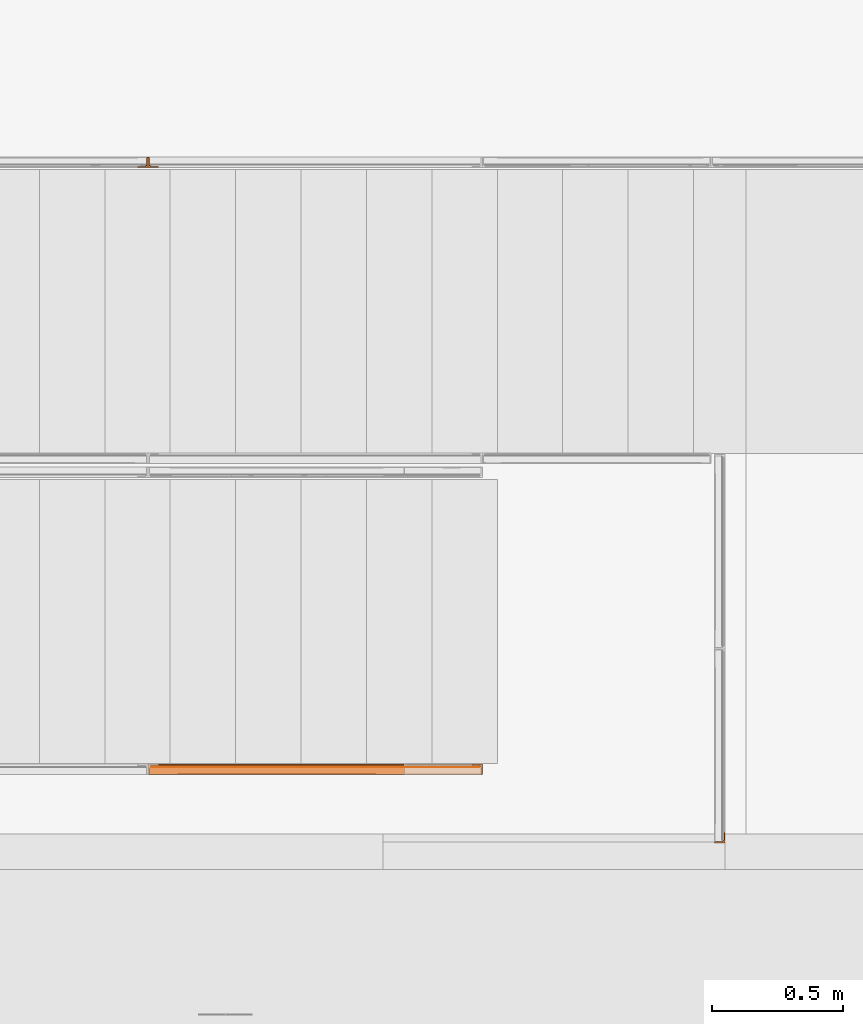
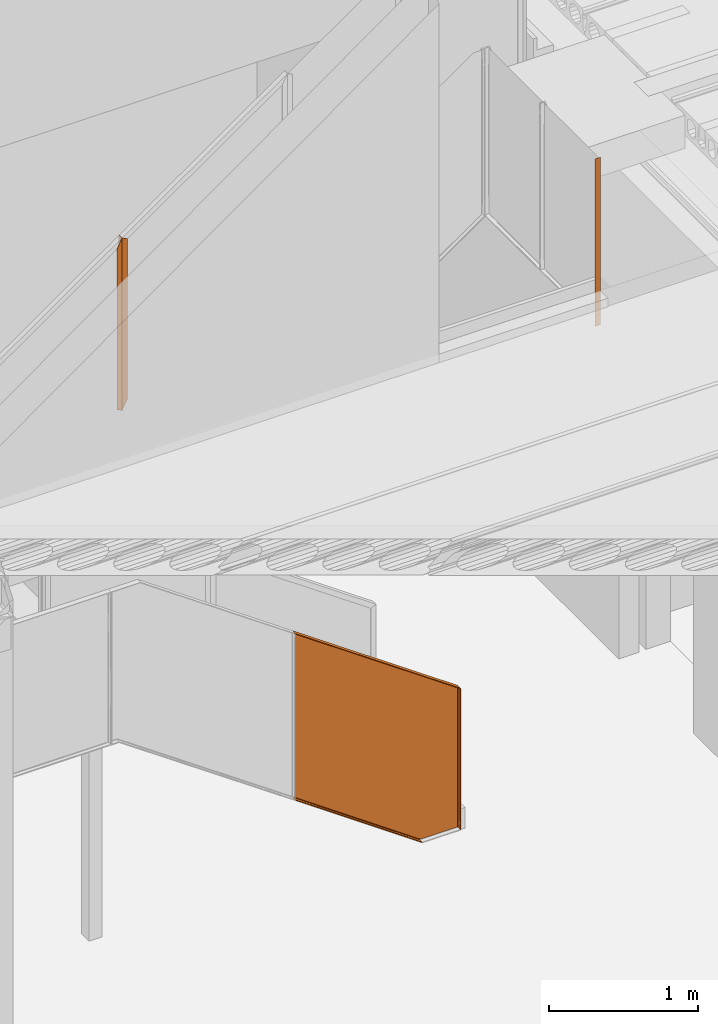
# One storey, part 222 of 230: 7 proxies.
"""IFC4X3_ADD2 building model written with IfcOpenShell, lengths in millimetres."""

from ifc_helpers import new_model, si_unit, direction, frame, origin_with_axes, place, context, subcontext, project, spatial, triangles, polygons, source, transform, mapped, material, type_object, type_shapes, element, save


model = new_model("IFC4X3_ADD2")

# Units and contexts
model_context = context("Model", 3, precision=1e-05, world=origin_with_axes(), true_north=direction((0.0, 1.0)))
body_context = subcontext(model_context, "Body", "Model", "MODEL_VIEW")
ifc_project = project(units=[si_unit("LENGTHUNIT", "METRE", prefix="MILLI"), si_unit("AREAUNIT", "SQUARE_METRE"), si_unit("VOLUMEUNIT", "CUBIC_METRE"), si_unit("PLANEANGLEUNIT", "RADIAN"), si_unit("TIMEUNIT", "SECOND"), si_unit("MASSUNIT", "GRAM")], contexts=[model_context])

# Site, building, storey
site_placement = place(None, origin_with_axes())
site = spatial("IfcSite", under=ifc_project, at=site_placement, Name="Site", CompositionType="ELEMENT")
building_placement = place(site_placement, origin_with_axes())
building = spatial("IfcBuilding", under=site, at=building_placement, Name="IFC Building Story")
storey_placement = place(building_placement, origin_with_axes())
storey = spatial("IfcBuildingStorey", under=building, at=storey_placement, Name="ETAGE 00 (0)", Elevation=0.0)

# Proxies
ifc_material = material(Name="<Unnamed>")
building_element_proxy_type_1 = type_object("IfcBuildingElementProxyType", Name="11", PredefinedType="NOTDEFINED")
shared_shape_1 = source(origin_with_axes(), body_context, "Body", "Tessellation", [
    polygons([(991.64813977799, 40.0, 40.0000000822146), (991.6481399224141, 38.0000008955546, 40.0000005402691), (40.0000007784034, 38.0000008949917, 708.60963534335), (40.0000004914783, 40.0, 708.609634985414), (0.0, 0.0, 687.786953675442), (2.0000000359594, 0.0, 688.828087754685), (246.416695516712, 0.0, 517.121066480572), (735.250089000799, 0.0, 173.707022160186), (979.666785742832, 0.0, 2.0), (979.036188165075, 0.0, 0.0), (39.6040891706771, 36.4116451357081, 708.4035367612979), (38.7828648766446, 35.5187605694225, 707.976034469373), (37.0000006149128, 35.000000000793, 707.047934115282), (11.000000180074, 35.0000000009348, 693.5131911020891), (8.62096939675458, 34.5866192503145, 692.274746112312), (6.97422061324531, 33.6253492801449, 691.4175029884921), (5.72236770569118, 32.06694790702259, 690.7658296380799), (5.12250915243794, 30.3382676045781, 690.453563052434), (5.000000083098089, 29.000000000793, 690.389788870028), (5.000000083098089, 3.00000000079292, 690.389788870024), (4.60444841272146, 1.4105605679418, 690.1838777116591), (3.78223442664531, 0.5171172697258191, 689.7558602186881), (0.0, 40.0, 687.7869536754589), (980.834811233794, 32.0192239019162, 5.70450357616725), (980.649713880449, 30.3012874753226, 5.11744977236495), (494.769483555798, 32.0052648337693, 349.964452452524), (492.80634218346, 29.000000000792, 347.694893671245), (980.6126821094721, 29.0000000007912, 5.0), (981.2010280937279, 33.5199412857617, 6.865995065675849), (982.504474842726, 35.0000000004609, 10.9999999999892), (981.697970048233, 34.5115988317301, 8.44209358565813), (275.425560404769, 35.0000000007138, 539.535951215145), (752.27668233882, 35.0000000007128, 204.511983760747), (990.702243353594, 35.0000000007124, 37.0000000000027), (991.509271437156, 36.3433179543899, 39.5595660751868), (991.2135495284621, 35.4200944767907, 38.6216560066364), (980.6126821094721, 3.00000000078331, 5.0), (980.473963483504, 1.34235033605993, 4.56004072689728), (980.177893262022, 0.418679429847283, 3.62102595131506), (979.036188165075, 40.0, 0.0)], [[[1, 2, 3, 4]], [[8, 9, 10]], [[10, 7, 8]], [[10, 5, 7]], [[5, 6, 7]], [[19, 20, 21]], [[19, 21, 22]], [[19, 22, 6]], [[19, 6, 5]], [[19, 5, 23]], [[23, 18, 19]], [[23, 17, 18]], [[23, 16, 17]], [[23, 15, 16]], [[23, 14, 15]], [[23, 4, 3]], [[23, 3, 11]], [[23, 11, 12]], [[23, 12, 13]], [[23, 13, 14]], [[24, 25, 26]], [[27, 26, 25]], [[25, 28, 27]], [[29, 24, 26]], [[30, 31, 26]], [[14, 30, 26]], [[31, 29, 26]], [[27, 19, 18]], [[18, 26, 27]], [[17, 16, 26]], [[26, 18, 17]], [[16, 15, 26]], [[26, 15, 14]], [[33, 34, 30]], [[30, 32, 33]], [[30, 14, 32]], [[14, 13, 32]], [[2, 35, 33]], [[33, 32, 3, 2]], [[36, 34, 33]], [[33, 35, 36]], [[12, 11, 32]], [[32, 13, 12]], [[32, 11, 3]], [[37, 38, 8]], [[8, 7, 20, 37]], [[39, 9, 8]], [[8, 38, 39]], [[22, 21, 7]], [[7, 6, 22]], [[7, 21, 20]], [[40, 1, 4, 23]], [[23, 5, 10, 40]], [[27, 28, 37]], [[27, 37, 20]], [[20, 19, 27]], [[30, 34, 36]], [[30, 36, 35]], [[30, 35, 2]], [[30, 2, 1]], [[30, 1, 40]], [[40, 31, 30]], [[40, 29, 31]], [[40, 24, 29]], [[40, 25, 24]], [[40, 28, 25]], [[40, 10, 9]], [[40, 9, 39]], [[40, 39, 38]], [[40, 38, 37]], [[40, 37, 28]]]),
])
type_shapes(building_element_proxy_type_1, [shared_shape_1])
proxy_1_placement = place(storey_placement, frame((36336.6894781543, 657.499963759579, 30.0), z_axis=(0.0, 0.0, 1.0), x_axis=(1.0, 0.0, 0.0)))
element("IfcBuildingElementProxy", 1, at=proxy_1_placement, inside=storey, type_object=building_element_proxy_type_1, material=ifc_material, Name="6:2062", ObjectType="6:2062", context=body_context, shape_type="MappedRepresentation", body=[
    mapped(shared_shape_1, transform((0.0, 0.0, 0.0))),
])
building_element_proxy_type_2 = type_object("IfcBuildingElementProxyType", Name="45", PredefinedType="NOTDEFINED")
shared_shape_2 = source(origin_with_axes(), body_context, "Body", "Tessellation", [
    polygons([(1237.50000013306, 40.0021105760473, 0.0), (1237.50000013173, 38.0021105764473, 0.0), (1237.5346924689, 37.5555193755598, 0.0178532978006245), (1237.98881825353, 36.3994047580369, 0.251554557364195), (1240.50000012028, 35.0021105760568, 1.54385370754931), (1266.50000001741, 35.0008234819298, 14.9239191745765), (1268.87842510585, 34.4611661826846, 16.1478993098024), (1270.20309564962, 33.6439889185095, 16.8295984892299), (1271.94903037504, 31.4575115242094, 17.7280877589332), (1272.50000000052, 29.0021105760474, 18.0116265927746), (1272.50000000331, 3.00211057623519, 18.0116265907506), (1272.53481827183, 2.55356178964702, 18.0295446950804), (1272.98902900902, 1.39651598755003, 18.2632896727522), (1275.49999999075, 0.00211057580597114, 19.5554802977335), (1277.49999998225, 0.0, 20.5847161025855), (1277.49999998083, 40.0021105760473, 20.5847161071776), (40.0, 40.0021105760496, 837.290654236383), (40.0, 38.002110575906, 837.290654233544), (189.687500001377, 38.0021105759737, 732.62932247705), (339.375000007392, 38.0021105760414, 627.967990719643), (489.062500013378, 38.0021105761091, 523.3066589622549), (638.750000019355, 38.0021105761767, 418.645327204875), (788.4375000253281, 38.0021105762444, 313.983995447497), (938.125000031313, 38.0021105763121, 209.322663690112), (1087.81250003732, 38.0021105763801, 104.661331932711), (639.335360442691, 0.00210679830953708, 464.9338539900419), (479.790261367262, 0.00228940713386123, 576.63125486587), (320.30039785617, 0.00247195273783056, 688.289985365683), (160.99417552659, 0.00265428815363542, 799.820148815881), (1.99999999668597, 0.00283626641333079, 911.1318485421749), (0.0, 0.0028417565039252, 915.018227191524), (1117.01801488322, 0.00156006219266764, 130.508595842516), (958.0776428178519, 0.00174197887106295, 241.782627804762), (798.807289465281, 0.00192427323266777, 353.287679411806), (957.530348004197, 29.002110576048, 238.500485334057), (321.725792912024, 29.0021105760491, 683.584066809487), (4.99999999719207, 29.0021105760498, 905.30228057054), (5.000000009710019, 3.00211056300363, 905.302280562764), (163.437500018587, 3.00211056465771, 794.390948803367), (321.875000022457, 3.00211056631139, 683.479617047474), (480.312500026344, 3.00211056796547, 572.568285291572), (638.750000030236, 3.00211056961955, 461.656953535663), (797.187500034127, 3.00211057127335, 350.745621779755), (955.625000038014, 3.00211057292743, 239.834290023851), (1114.06250004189, 3.00211057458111, 128.922958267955), (638.749999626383, 35.0019750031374, 454.283532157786), (639.324408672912, 32.0662130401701, 457.507522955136), (955.049926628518, 32.0485664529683, 236.53092655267), (11.0000000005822, 35.003126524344, 893.6431446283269), (8.60496015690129, 34.531448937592, 898.2971604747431), (323.251309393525, 31.9412966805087, 678.931736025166), (324.874997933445, 35.002550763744, 673.9633397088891), (7.411356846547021, 33.7993600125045, 900.616557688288), (6.702193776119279, 33.364399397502, 901.994595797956), (5.18933983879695, 30.711465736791, 904.934357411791), (5.85768653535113, 32.338982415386, 903.635633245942), (0.0, 40.0021105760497, 915.018227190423), (4.898819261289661, 2.1118921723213, 905.498893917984), (4.59843409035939, 1.36558594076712, 906.0825991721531), (3.41637283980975, 0.32197944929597, 908.3795679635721), (940.578010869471, 35.0018191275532, 211.271530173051), (790.057631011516, 35.0018240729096, 316.526531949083), (639.33559834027, 35.0018290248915, 421.922544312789), (488.54036587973, 35.0018339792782, 527.369743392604), (337.800386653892, 35.0018389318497, 632.778305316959), (187.244113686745, 35.0018438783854, 738.058406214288), (37.0000000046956, 35.0018488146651, 843.120222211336), (1090.76828489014, 35.0018141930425, 106.247362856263), (39.8915423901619, 37.0919567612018, 837.501407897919), (39.6021713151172, 36.3848859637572, 838.063710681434), (38.4042936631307, 35.3252580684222, 840.391413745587)], [[[11, 12, 13]], [[11, 13, 14]], [[11, 14, 15]], [[15, 16, 10]], [[15, 10, 11]], [[16, 9, 10]], [[16, 8, 9]], [[16, 7, 8]], [[16, 6, 7]], [[16, 2, 3]], [[16, 3, 4]], [[16, 4, 5]], [[16, 5, 6]], [[16, 1, 2]], [[25, 2, 1]], [[1, 24, 25]], [[1, 23, 24]], [[1, 22, 23]], [[1, 21, 22]], [[1, 20, 21]], [[1, 19, 20]], [[1, 17, 19]], [[17, 18, 19]], [[29, 30, 31]], [[31, 28, 29]], [[31, 27, 28]], [[31, 26, 27]], [[31, 15, 26]], [[34, 26, 15]], [[15, 33, 34]], [[15, 32, 33]], [[15, 14, 32]], [[39, 40, 36]], [[36, 37, 38]], [[36, 38, 39]], [[43, 44, 35]], [[35, 42, 43]], [[35, 36, 42]], [[36, 41, 42]], [[36, 40, 41]], [[45, 11, 10]], [[45, 10, 35]], [[35, 44, 45]], [[46, 47, 48]], [[49, 50, 51]], [[51, 52, 49]], [[50, 53, 51]], [[47, 51, 36, 35]], [[8, 7, 48]], [[6, 46, 48]], [[48, 7, 6]], [[35, 10, 9]], [[9, 48, 35]], [[9, 8, 48]], [[53, 54, 36]], [[55, 37, 36]], [[36, 56, 55]], [[36, 54, 56]], [[52, 51, 47]], [[47, 46, 52]], [[36, 51, 53]], [[35, 48, 47]], [[16, 15, 31, 57]], [[57, 17, 1, 16]], [[42, 26, 34]], [[29, 39, 38]], [[38, 58, 29]], [[59, 60, 29]], [[29, 58, 59]], [[60, 30, 29]], [[45, 44, 33]], [[44, 43, 34]], [[32, 12, 11]], [[11, 45, 32]], [[32, 13, 12]], [[40, 28, 27]], [[39, 29, 28]], [[41, 27, 26]], [[26, 42, 41]], [[28, 40, 39]], [[27, 41, 40]], [[32, 14, 13]], [[34, 33, 44]], [[33, 32, 45]], [[34, 43, 42]], [[66, 67, 49]], [[66, 49, 52]], [[52, 65, 66]], [[52, 46, 64]], [[52, 64, 65]], [[46, 63, 64]], [[46, 62, 63]], [[46, 61, 62]], [[46, 6, 61]], [[68, 61, 6]], [[6, 5, 68]], [[22, 63, 62]], [[66, 19, 18]], [[18, 69, 66]], [[70, 71, 66]], [[66, 69, 70]], [[71, 67, 66]], [[25, 24, 61]], [[24, 23, 62]], [[68, 3, 2]], [[2, 25, 68]], [[68, 4, 3]], [[20, 65, 64]], [[19, 66, 65]], [[21, 64, 63]], [[63, 22, 21]], [[65, 20, 19]], [[64, 21, 20]], [[68, 5, 4]], [[62, 61, 24]], [[61, 68, 25]], [[62, 23, 22]], [[49, 67, 71]], [[49, 71, 70]], [[49, 70, 69]], [[49, 69, 18]], [[49, 18, 17]], [[49, 17, 57]], [[57, 50, 49]], [[57, 53, 50]], [[57, 54, 53]], [[57, 56, 54]], [[57, 55, 56]], [[57, 37, 55]], [[57, 31, 30]], [[57, 30, 60]], [[57, 60, 59]], [[57, 59, 58]], [[57, 58, 38]], [[57, 38, 37]]]),
])
type_shapes(building_element_proxy_type_2, [shared_shape_2])
proxy_2_placement = place(storey_placement, frame((36336.6894781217, 657.497853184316, 1166.74266860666), z_axis=(0.0, 0.0, 1.0), x_axis=(1.0, 0.0, 0.0)))
element("IfcBuildingElementProxy", 2, at=proxy_2_placement, inside=storey, type_object=building_element_proxy_type_2, material=ifc_material, Name="23:7860", ObjectType="23:7860", context=body_context, shape_type="MappedRepresentation", body=[
    mapped(shared_shape_2, transform((0.0, 0.0, 0.0))),
])
building_element_proxy_type_3 = type_object("IfcBuildingElementProxyType", Name="47", PredefinedType="NOTDEFINED")
shared_shape_3 = source(origin_with_axes(), body_context, "Body", "Tessellation", [
    polygons([(0.0, 40.00000460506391, 1136.7426687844), (0.0, 38.0000046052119, 1136.7426687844), (0.0, 38.0000046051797, 999.6498351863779), (0.0, 38.0000046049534, 40.0), (0.0, 40.00000460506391, 40.0), (40.0, 40.00000460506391, 1157.32738459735), (40.0, 0.0, 1157.32738459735), (38.000000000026, 2.31455918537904e-06, 1156.29814880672), (36.5033905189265, 0.421920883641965, 1155.52796678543), (35.491163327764, 1.37411092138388, 1155.00705655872), (35.035963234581, 2.53627173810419, 1154.77280244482), (34.9999999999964, 3.00000460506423, 1154.75429512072), (34.9999999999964, 29.0000046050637, 1154.75429512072), (34.430414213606, 31.5277436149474, 1154.46117608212), (33.7589297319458, 32.6101930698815, 1154.11561815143), (33.0778853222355, 33.2923666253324, 1153.76514051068), (32.6907849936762, 33.6801087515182, 1153.56593175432), (31.3832040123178, 34.4723112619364, 1152.89302718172), (28.9999999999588, 35.0000046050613, 1151.66658774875), (3.00000000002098, 35.000004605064, 1138.28652247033), (1.50339051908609, 35.4219208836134, 1137.51634044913), (0.491163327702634, 36.3741109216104, 1136.99543022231), (0.0359632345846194, 37.5362717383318, 1136.76117610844), (40.0, 40.00000460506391, 0.0), (40.0, 6.91360958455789e-06, 0.0), (35.0, 29.0000046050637, 291.793392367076), (35.0, 29.0000046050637, 580.143267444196), (35.0, 29.0000046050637, 868.3600825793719), (35.0, 3.00000460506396, 1011.03500823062), (35.0, 3.00000460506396, 5.000000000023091), (35.0, 29.0000046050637, 5.00000000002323), (31.9986061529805, 32.039989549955, 867.427185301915), (28.9999999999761, 35.0000046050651, 866.499940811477), (31.6093514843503, 34.36800021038, 8.39064851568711), (30.8992626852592, 34.6609992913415, 9.100737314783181), (32.0291803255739, 31.9915338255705, 293.953641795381), (29.0000306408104, 35.0000354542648, 11.0000000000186), (31.9542957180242, 32.0657286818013, 580.745660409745), (34.3603314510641, 31.7557871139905, 5.63966854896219), (33.4136579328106, 33.0733531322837, 6.586342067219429), (34.9944634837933, 29.2779995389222, 5.00553651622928), (32.8749080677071, 33.4599232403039, 7.12509193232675), (2.99999999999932, 35.0000046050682, 37.0000000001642), (2.99999999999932, 35.0000046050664, 174.349441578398), (2.99999999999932, 35.0000046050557, 1001.05350834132), (0.8983252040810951, 35.8595703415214, 39.101674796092), (0.268017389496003, 36.7280855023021, 39.7319826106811), (1.93057025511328, 35.213648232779, 38.0694297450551), (38.0000000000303, 2.81580376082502e-06, 1012.43868138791), (35.8983242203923, 0.859571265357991, 4.10167577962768), (35.26801711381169, 1.72808609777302, 4.73198288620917), (37.999999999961, 5.83479129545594e-06, 145.975894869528), (36.9305684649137, 0.213648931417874, 3.06943153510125), (37.999999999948, 6.33644140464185e-06, 2.00000000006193)], [[[3, 4, 5]], [[5, 1, 3]], [[1, 2, 3]], [[2, 1, 6]], [[6, 19, 20]], [[6, 20, 21]], [[6, 21, 22]], [[6, 22, 23]], [[6, 23, 2]], [[6, 18, 19]], [[6, 17, 18]], [[6, 16, 17]], [[6, 15, 16]], [[6, 14, 15]], [[6, 13, 14]], [[6, 7, 12]], [[6, 12, 13]], [[7, 8, 9]], [[7, 9, 10]], [[7, 10, 11]], [[7, 11, 12]], [[24, 25, 7, 6]], [[28, 13, 12]], [[28, 12, 29]], [[29, 27, 28]], [[29, 26, 27]], [[29, 30, 26]], [[30, 31, 26]], [[19, 18, 32]], [[32, 33, 19]], [[18, 17, 32]], [[17, 16, 32]], [[34, 35, 36]], [[37, 33, 38, 36]], [[36, 35, 37]], [[39, 40, 26]], [[26, 41, 39]], [[42, 36, 26]], [[26, 40, 42]], [[16, 15, 28]], [[14, 13, 28]], [[28, 15, 14]], [[33, 32, 38]], [[32, 28, 27]], [[27, 38, 32]], [[28, 32, 16]], [[26, 31, 41]], [[36, 42, 34]], [[36, 38, 27, 26]], [[44, 45, 33]], [[44, 33, 37]], [[37, 43, 44]], [[45, 20, 19]], [[45, 19, 33]], [[23, 22, 3]], [[22, 21, 3]], [[3, 2, 23]], [[21, 20, 45]], [[45, 3, 21]], [[46, 47, 44]], [[44, 48, 46]], [[44, 43, 48]], [[44, 47, 4]], [[4, 3, 45, 44]], [[6, 1, 5, 24]], [[11, 10, 29]], [[10, 9, 29]], [[29, 12, 11]], [[9, 8, 49]], [[49, 29, 9]], [[50, 51, 52]], [[52, 53, 50]], [[52, 54, 53]], [[52, 51, 30]], [[30, 29, 49, 52]], [[49, 8, 7]], [[7, 52, 49]], [[7, 25, 52]], [[25, 54, 52]], [[31, 30, 51]], [[31, 51, 50]], [[31, 50, 53]], [[31, 53, 54]], [[31, 54, 25]], [[31, 25, 24]], [[24, 41, 31]], [[24, 39, 41]], [[24, 40, 39]], [[24, 42, 40]], [[24, 34, 42]], [[24, 35, 34]], [[24, 37, 35]], [[24, 5, 4]], [[24, 4, 47]], [[24, 47, 46]], [[24, 46, 48]], [[24, 48, 43]], [[24, 43, 37]]]),
])
type_shapes(building_element_proxy_type_3, [shared_shape_3])
proxy_3_placement = place(storey_placement, frame((37574.1894781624, 657.4999591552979, 30.0), z_axis=(0.0, 0.0, 1.0), x_axis=(1.0, 0.0, 0.0)))
element("IfcBuildingElementProxy", 3, at=proxy_3_placement, inside=storey, type_object=building_element_proxy_type_3, material=ifc_material, Name="24:8250", ObjectType="24:8250", context=body_context, shape_type="MappedRepresentation", body=[
    mapped(shared_shape_3, transform((0.0, 0.0, 0.0))),
])
building_element_proxy_type_4 = type_object("IfcBuildingElementProxyType", Name="49", PredefinedType="NOTDEFINED")
shared_shape_4 = source(origin_with_axes(), body_context, "Body", "Tessellation", [
    triangles([(2.11648546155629e-07, 0.0, 682.513191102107), (971.5044748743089, 0.0, 0.0), (1255.50000003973, 0.0, 0.0), (1255.50000003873, 0.0, 1140.66658774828), (0.0, 0.0, 2019.38581322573)], [[1, 2, 3], [1, 3, 4], [1, 4, 5]]),
])
type_shapes(building_element_proxy_type_4, [shared_shape_4])
proxy_4_placement = place(storey_placement, frame((36347.6894781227, 686.499963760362, 40.9999999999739), z_axis=(0.0, 0.0, 1.0), x_axis=(1.0, 0.0, 0.0)))
element("IfcBuildingElementProxy", 4, at=proxy_4_placement, inside=storey, type_object=building_element_proxy_type_4, material=ifc_material, Name="25:8304", ObjectType="25:8304", context=body_context, shape_type="MappedRepresentation", body=[
    mapped(shared_shape_4, transform((0.0, 0.0, 0.0))),
])
building_element_proxy_type_5 = type_object("IfcBuildingElementProxyType", Name="113", PredefinedType="NOTDEFINED")
shared_shape_5 = source(origin_with_axes(), body_context, "Body", "Tessellation", [
    polygons([(38.000038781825, 40.0, 1330.0), (38.0000387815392, 40.0, 40.0), (40.000038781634, 40.0, 40.0), (40.000038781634, 40.0, 1330.0), (40.0000387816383, 0.0, 1370.0), (1.96202269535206e-05, 0.0, 1370.0), (1.00380916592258e-05, 1.99999996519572, 1368.00000004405), (0.6799518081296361, 4.04174058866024, 1365.95825942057), (1.42999574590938, 4.64110857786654, 1365.35889143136), (3.00003878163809, 5.00000000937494, 1364.99999999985), (29.0000387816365, 5.00000000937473, 1364.99999999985), (31.830863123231, 5.56244914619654, 1364.43755086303), (33.4462204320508, 6.69317965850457, 1363.30682035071), (34.5258912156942, 8.38084043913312, 1361.61915957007), (34.9906236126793, 10.6125554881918, 1359.387444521), (35.0000387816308, 11.0000000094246, 1358.99999999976), (35.0000387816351, 37.0000000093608, 1332.99999999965), (35.679951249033, 39.0417406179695, 1330.95825939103), (36.4299955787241, 39.6411086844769, 1330.35889132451), (33.4462161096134, 6.693178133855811, 6.693178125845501), (34.5258895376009, 8.38083947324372, 8.38083946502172), (32.0128851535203, 7.99419312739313, 685.0000000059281), (34.9906233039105, 10.6125497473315, 10.6125497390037), (35.0000387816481, 11.0000000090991, 11.0000000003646), (31.8308603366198, 5.562449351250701, 5.562449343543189), (29.0000387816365, 5.000000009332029, 685.000000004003), (29.0000387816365, 5.00000000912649, 5.000000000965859), (35.0000387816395, 37.0000000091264, 37.0000000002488), (35.0000387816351, 37.0000000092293, 361.000000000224), (35.0000387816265, 37.0000000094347, 1008.99999999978), (35.6799483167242, 39.0417401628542, 39.0417401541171), (36.429989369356, 39.6411070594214, 39.6411070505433), (0.679947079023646, 4.04174009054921, 4.0417400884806), (1.42998905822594, 4.64110725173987, 4.64110724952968), (4.19773442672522e-05, 2.00000001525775, 343.500000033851), (5.262376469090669e-05, 2.00000003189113, 2.00000002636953), (3.00003878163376, 5.00000000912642, 5.00000000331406), (2.33419113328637e-05, 1.99999732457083, 1026.50000001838), (4.27103716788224e-05, 0.0, 0.0), (40.000038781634, 0.0, 0.0)], [[[1, 2, 3, 4]], [[16, 17, 18]], [[16, 18, 19]], [[16, 19, 1]], [[16, 1, 4]], [[16, 4, 5]], [[5, 15, 16]], [[5, 14, 15]], [[5, 13, 14]], [[5, 12, 13]], [[5, 11, 12]], [[5, 6, 7]], [[5, 7, 8]], [[5, 8, 9]], [[5, 9, 10]], [[5, 10, 11]], [[20, 21, 22]], [[21, 23, 22]], [[24, 16, 22]], [[22, 23, 24]], [[25, 22, 26]], [[26, 27, 25]], [[25, 20, 22]], [[16, 15, 22]], [[13, 12, 22]], [[22, 14, 13]], [[22, 15, 14]], [[12, 11, 26]], [[26, 22, 12]], [[30, 17, 16]], [[16, 29, 30]], [[16, 24, 29]], [[24, 28, 29]], [[31, 32, 29]], [[29, 28, 31]], [[29, 32, 2]], [[2, 1, 30, 29]], [[1, 19, 30]], [[18, 17, 30]], [[30, 19, 18]], [[33, 34, 35]], [[35, 36, 33]], [[35, 34, 37]], [[37, 10, 38, 35]], [[10, 9, 38]], [[8, 7, 38]], [[38, 9, 8]], [[38, 7, 6]], [[6, 35, 38]], [[6, 39, 35]], [[39, 36, 35]], [[5, 4, 3, 40]], [[6, 5, 40, 39]], [[26, 11, 10]], [[26, 10, 37]], [[37, 27, 26]], [[27, 37, 34]], [[27, 34, 33]], [[27, 33, 36]], [[27, 36, 39]], [[27, 39, 40]], [[40, 25, 27]], [[40, 20, 25]], [[40, 21, 20]], [[40, 23, 21]], [[40, 24, 23]], [[40, 3, 2]], [[40, 2, 32]], [[40, 32, 31]], [[40, 31, 28]], [[40, 28, 24]]]),
])
type_shapes(building_element_proxy_type_5, [shared_shape_5])
proxy_5_placement = place(storey_placement, frame((38502.118371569, 396.974705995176, 3990.0), z_axis=(0.0, 0.0, 1.0), x_axis=(1.0, 0.0, 0.0)))
element("IfcBuildingElementProxy", 5, at=proxy_5_placement, inside=storey, type_object=building_element_proxy_type_5, material=ifc_material, Name="57", ObjectType="57", context=body_context, shape_type="MappedRepresentation", body=[
    mapped(shared_shape_5, transform((0.0, 0.0, 0.0))),
])
building_element_proxy_type_6 = type_object("IfcBuildingElementProxyType", Name="157", PredefinedType="NOTDEFINED")
shared_shape_6 = source(origin_with_axes(), body_context, "Body", "Tessellation", [
    polygons([(0.0, 1.9999999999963, 20.8226821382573), (4.42355553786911e-07, 1.99999999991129, 1332.74482679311), (4.42260261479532e-07, 0.0, 1332.74482679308), (0.0, 0.0, 20.8226821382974), (40.0000006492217, 39.9996268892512, 1410.47240015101), (38.0000003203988, 39.9996748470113, 1406.58602084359), (38.0000003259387, 39.9997621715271, 1238.27203998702), (38.000000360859, 40.0003123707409, 177.78840544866), (38.0000003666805, 40.0004040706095, 1.04113402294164), (40.0000002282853, 40.0003586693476, 0.0), (0.157585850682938, 3.30509793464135, 1333.0510450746), (0.454454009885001, 3.97478761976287, 1333.62791611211), (0.966108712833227, 4.51008731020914, 1334.62215806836), (2.16794811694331, 4.95008932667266, 1336.95755956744), (3.00000044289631, 4.99999999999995, 1338.57439476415), (29.0000004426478, 5.00000000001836, 1389.09731718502), (32.3429490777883, 5.58292320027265, 1395.59329928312), (33.5772784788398, 6.47265986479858, 1397.99183499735), (33.7135292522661, 6.570872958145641, 1398.25659604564), (34.5847840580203, 8.08543831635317, 1399.94960908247), (34.9972219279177, 10.7217957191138, 1400.75105394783), (35.0000004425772, 10.9999999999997, 1400.75645312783), (35.0000004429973, 37.0000000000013, 1400.75645312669), (35.1581158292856, 38.2989160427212, 1401.06370125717), (35.4553851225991, 38.9685077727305, 1401.64135177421), (35.9695496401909, 39.506312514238, 1402.64047077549), (37.1786338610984, 39.9489763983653, 1404.98995032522), (40.0000004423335, 0.0, 1410.47239974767), (29.0000000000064, 4.99999999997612, 5.726237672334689), (31.6491171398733, 5.51446855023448, 4.34719457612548), (32.0615594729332, 7.992348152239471, 177.997270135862), (29.0000000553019, 4.99999999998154, 178.647622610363), (33.9957327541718, 7.443401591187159, 3.12562380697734), (32.4612661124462, 8.417202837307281, 873.8848589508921), (35.0023999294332, 10.9976369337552, 876.448846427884), (34.9979558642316, 11.0020130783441, 352.141239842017), (32.03834732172, 7.99658638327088, 351.86181261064), (32.1306624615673, 8.0873825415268, 525.76211175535), (32.2870098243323, 8.24320056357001, 699.7658837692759), (34.9009095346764, 9.78252972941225, 2.65441860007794), (35.0000000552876, 10.999999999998, 177.372037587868), (35.0000000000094, 10.999999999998, 2.60283536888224), (29.0006589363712, 4.999332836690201, 1043.25454730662), (31.6872860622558, 5.36883113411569, 1046.85348777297), (31.7073161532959, 5.35786548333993, 1220.61618651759), (33.0756851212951, 7.67726564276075, 1222.86004657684), (35.0010557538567, 10.9993790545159, 1051.21804851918), (32.9871503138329, 7.57705630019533, 1048.58414036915), (35.0000003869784, 11.0, 1225.98725090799), (3.00000038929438, 5.00000000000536, 1180.58663062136), (3.00000005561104, 4.99999999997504, 185.164645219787), (2.99999999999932, 4.99999999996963, 19.2609809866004), (0.40353299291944, 3.60958743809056, 20.6126161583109), (1.26533536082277, 4.51836773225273, 20.1639902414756), (35.00011257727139, 36.9998874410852, 2.60283536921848), (35.4061881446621, 38.6147644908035, 2.39138720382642), (36.2692012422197, 39.5212745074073, 1.94213102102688), (40.0, 0.0, 1.1609526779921e-07)], [[[1, 2, 3, 4]], [[8, 9, 10]], [[10, 7, 8]], [[10, 5, 7]], [[5, 6, 7]], [[6, 5, 28]], [[6, 28, 22]], [[22, 23, 24]], [[22, 24, 25]], [[22, 25, 26]], [[22, 26, 27]], [[22, 27, 6]], [[28, 21, 22]], [[28, 20, 21]], [[28, 19, 20]], [[28, 18, 19]], [[28, 17, 18]], [[28, 16, 17]], [[28, 3, 15]], [[28, 15, 16]], [[3, 2, 11]], [[3, 11, 12]], [[3, 12, 13]], [[3, 13, 14]], [[3, 14, 15]], [[29, 30, 31]], [[31, 32, 29]], [[30, 33, 31]], [[39, 34, 35]], [[35, 38, 39]], [[35, 36, 38]], [[36, 37, 38]], [[33, 40, 31]], [[41, 31, 40]], [[40, 42, 41]], [[39, 34, 43]], [[43, 38, 39]], [[43, 37, 38]], [[43, 32, 37]], [[34, 44, 43]], [[45, 16, 43]], [[45, 17, 16]], [[17, 45, 46]], [[32, 31, 37]], [[31, 41, 36]], [[48, 44, 45]], [[45, 46, 47]], [[45, 47, 48]], [[35, 47, 48]], [[20, 19, 49]], [[18, 46, 49]], [[49, 19, 18]], [[49, 21, 20]], [[49, 22, 21]], [[48, 34, 35]], [[47, 49, 46]], [[36, 37, 31]], [[46, 18, 17]], [[43, 44, 45]], [[34, 48, 44]], [[43, 16, 15]], [[43, 15, 50]], [[50, 51, 32]], [[50, 32, 43]], [[51, 52, 29]], [[51, 29, 32]], [[1, 53, 51]], [[51, 50, 2, 1]], [[54, 52, 51]], [[51, 53, 54]], [[12, 11, 50]], [[50, 13, 12]], [[50, 14, 13]], [[50, 15, 14]], [[50, 11, 2]], [[25, 24, 7]], [[7, 26, 25]], [[7, 27, 26]], [[7, 6, 27]], [[7, 24, 23]], [[23, 55, 8, 7]], [[55, 56, 8]], [[57, 9, 8]], [[8, 56, 57]], [[58, 4, 3, 28]], [[10, 58, 28, 5]], [[41, 42, 55]], [[55, 36, 41]], [[55, 35, 36]], [[55, 47, 35]], [[55, 23, 47]], [[23, 49, 47]], [[23, 22, 49]], [[29, 52, 54]], [[29, 54, 53]], [[29, 53, 1]], [[29, 1, 4]], [[29, 4, 58]], [[58, 30, 29]], [[58, 33, 30]], [[58, 40, 33]], [[58, 42, 40]], [[58, 10, 9]], [[58, 9, 57]], [[58, 57, 56]], [[58, 56, 55]], [[58, 55, 42]]]),
])
type_shapes(building_element_proxy_type_6, [shared_shape_6])
proxy_6_placement = place(storey_placement, frame((36296.6894777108, 2977.49996376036, 2497.03385087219), z_axis=(0.0, 0.0, 1.0), x_axis=(1.0, 0.0, 0.0)))
element("IfcBuildingElementProxy", 6, at=proxy_6_placement, inside=storey, type_object=building_element_proxy_type_6, material=ifc_material, Name="84", ObjectType="84", context=body_context, shape_type="MappedRepresentation", body=[
    mapped(shared_shape_6, transform((0.0, 0.0, 0.0))),
])
building_element_proxy_type_7 = type_object("IfcBuildingElementProxyType", Name="159", PredefinedType="NOTDEFINED")
shared_shape_7 = source(origin_with_axes(), body_context, "Body", "Tessellation", [
    polygons([(40.000001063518, 2.00000000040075, 1389.88768381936), (40.00000062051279, 2.00000000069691, 76.83928508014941), (40.0000006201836, 0.0, 76.83928507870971), (40.0000010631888, 0.0, 1389.88768381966), (9.73354610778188e-07, 0.0, 1410.47239965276), (9.27670612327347e-07, 40.00401294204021, 1410.47239972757), (2.00000107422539, 40.0, 1409.44316386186), (3.84773789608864, 39.3328619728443, 1408.49228542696), (4.71885124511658, 38.2497721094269, 1408.04399490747), (5.00000107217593, 37.0, 1407.89931017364), (5.00000105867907, 11.0, 1407.89931014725), (5.07065191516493, 10.0871722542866, 1407.86295195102), (5.97962654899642, 7.76596797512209, 1407.39517733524), (8.04042552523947, 5.83202927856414, 1406.3346533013), (11.0000010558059, 5.000000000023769, 1404.81160277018), (37.0000010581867, 5.000000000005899, 1391.43153749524), (37.40519788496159, 4.9686861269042, 1391.22301595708), (38.8494321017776, 4.32758131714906, 1390.47978718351), (39.7213713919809, 3.23997128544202, 1390.0310716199), (2.00000037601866, 39.9973617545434, 179.542114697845), (2.00000146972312, 40.0006317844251, 1233.74301351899), (1.54045645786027e-06, 39.9978054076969, 1.72327474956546e-08), (2.00000019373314, 39.9968167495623, 3.84196462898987), (5.00000062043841, 36.9999999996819, 9.60491063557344), (5.00000062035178, 10.9999999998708, 9.60491063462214), (5.000000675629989, 10.999999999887, 184.391710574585), (5.000000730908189, 10.9999999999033, 359.178510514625), (5.000000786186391, 10.999999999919, 533.9653104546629), (5.00000100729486, 10.9999999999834, 1233.11251021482), (8.03916794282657, 7.92649311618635, 710.1795927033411), (8.06308107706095, 7.90350594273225, 883.691838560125), (8.02336899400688, 7.9448386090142, 1057.4538497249), (7.96920418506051, 8.00078436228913, 1231.64916653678), (7.96802820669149, 7.99722137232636, 536.69020968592), (9.38675195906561, 5.3745634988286, 18.0317815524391), (9.22423583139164, 5.25015477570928, 191.800166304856), (7.62589205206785, 7.37781983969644, 189.000629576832), (8.19333611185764, 5.65165036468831, 15.7392510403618), (5.469017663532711, 8.42565170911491, 10.5058839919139), (6.55964586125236, 6.78290020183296, 12.60096127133), (5.060064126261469, 10.0048676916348, 9.72029155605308), (7.4060432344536, 6.196811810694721, 14.2268754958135), (7.89136835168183, 8.04643354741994, 363.072379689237), (10.9987179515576, 4.99870451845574, 367.252848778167), (11.0000006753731, 5.00000000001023, 194.572347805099), (11.0000006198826, 5.00000000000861, 21.1308033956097), (37.0000006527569, 5.00000000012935, 71.0763387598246), (37.0000007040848, 5.00000000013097, 236.120738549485), (37.0000010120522, 5.000000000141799, 1226.38713765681), (39.5766282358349, 3.64695822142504, 76.02599429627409), (39.9082057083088, 2.83870145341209, 76.6629486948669), (38.1963341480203, 4.75507619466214, 73.3744740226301), (6.2040489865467e-07, 0.0, 0.0), (4.56937416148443, 38.668645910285, 8.77768490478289), (4.90505265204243, 37.8555585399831, 9.42251728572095), (3.1982334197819, 39.7619821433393, 6.14374804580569)], [[[1, 2, 3, 4]], [[16, 17, 18]], [[16, 18, 19]], [[16, 19, 1]], [[16, 1, 4]], [[4, 5, 15]], [[4, 15, 16]], [[5, 14, 15]], [[5, 13, 14]], [[5, 12, 13]], [[5, 11, 12]], [[5, 6, 7]], [[5, 7, 8]], [[5, 8, 9]], [[5, 9, 10]], [[5, 10, 11]], [[21, 7, 6]], [[6, 20, 21]], [[6, 22, 20]], [[22, 23, 20]], [[29, 11, 10]], [[10, 28, 29]], [[10, 27, 28]], [[10, 24, 27]], [[24, 26, 27]], [[24, 25, 26]], [[32, 33, 29]], [[29, 31, 32]], [[29, 30, 31]], [[29, 28, 30]], [[28, 34, 30]], [[35, 36, 37]], [[37, 38, 35]], [[39, 40, 26]], [[26, 41, 39]], [[42, 37, 26]], [[26, 40, 42]], [[15, 14, 33]], [[14, 13, 33]], [[13, 12, 33]], [[29, 33, 12]], [[12, 11, 29]], [[43, 34, 28]], [[37, 43, 27]], [[30, 34, 44]], [[44, 31, 30]], [[44, 32, 31]], [[44, 33, 32]], [[44, 15, 33]], [[45, 44, 43]], [[43, 36, 45]], [[46, 45, 36]], [[36, 35, 46]], [[43, 37, 36]], [[34, 43, 44]], [[27, 26, 37]], [[28, 27, 43]], [[26, 25, 41]], [[37, 42, 38]], [[45, 46, 47]], [[45, 47, 48]], [[48, 44, 45]], [[49, 16, 15]], [[15, 44, 48]], [[15, 48, 49]], [[50, 51, 48]], [[48, 52, 50]], [[48, 47, 52]], [[48, 51, 2]], [[2, 1, 49, 48]], [[1, 19, 49]], [[17, 16, 49]], [[49, 18, 17]], [[49, 19, 18]], [[5, 4, 3, 53]], [[6, 5, 53, 22]], [[54, 55, 20]], [[20, 56, 54]], [[20, 23, 56]], [[20, 55, 24]], [[24, 10, 21, 20]], [[10, 9, 21]], [[8, 7, 21]], [[21, 9, 8]], [[23, 22, 53]], [[23, 53, 25]], [[25, 24, 55]], [[25, 55, 54]], [[25, 54, 56]], [[25, 56, 23]], [[53, 41, 25]], [[53, 39, 41]], [[53, 40, 39]], [[53, 42, 40]], [[53, 38, 42]], [[53, 35, 38]], [[53, 46, 35]], [[53, 3, 47]], [[53, 47, 46]], [[3, 2, 51]], [[3, 51, 50]], [[3, 50, 52]], [[3, 52, 47]]]),
])
type_shapes(building_element_proxy_type_7, [shared_shape_7])
proxy_7_placement = place(storey_placement, frame((36336.6894770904, 2977.49996376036, 2497.03385098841), z_axis=(0.0, 0.0, 1.0), x_axis=(1.0, 0.0, 0.0)))
element("IfcBuildingElementProxy", 7, at=proxy_7_placement, inside=storey, type_object=building_element_proxy_type_7, material=ifc_material, Name="85", ObjectType="85", context=body_context, shape_type="MappedRepresentation", body=[
    mapped(shared_shape_7, transform((0.0, 0.0, 0.0))),
])

save(model, "model.ifc")
